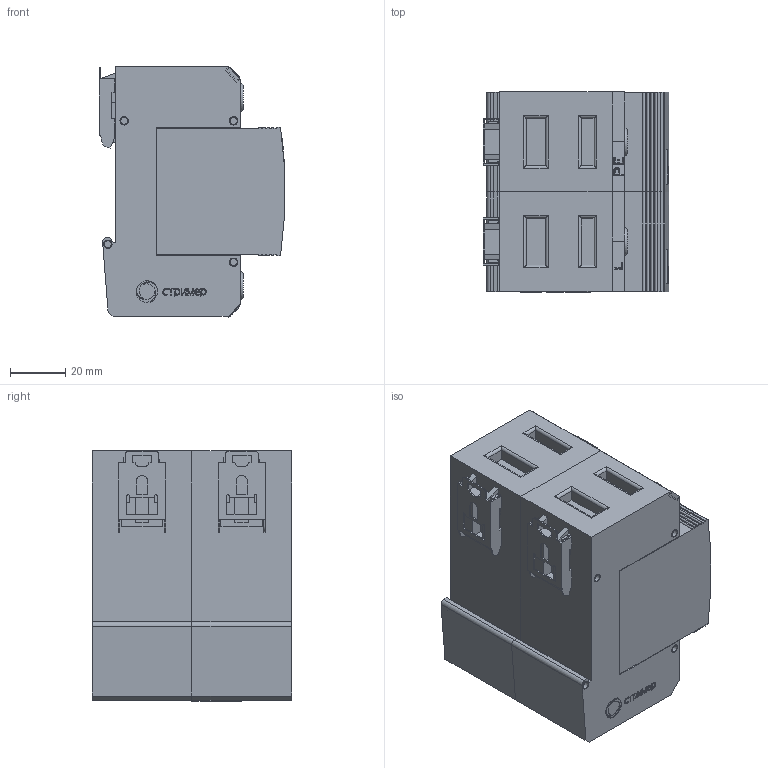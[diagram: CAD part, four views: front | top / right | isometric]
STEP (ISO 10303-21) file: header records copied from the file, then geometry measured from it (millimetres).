
FILE_DESCRIPTION(('TFLEX Exchange Step'),'2;1');
FILE_NAME('X2\041004400442\X0\.112_001.stp', '2022-08-30T13:48:24+03:00',('Ivan Berdigulov'),('Unknown organisation'),'TFLEX Exchange 2019.2','T-FLEX CAD','Unknown authorisation');
FILE_SCHEMA( ('AUTOMOTIVE_DESIGN { 1 0 10303 214 1 1 1 1 }') );
Length unit declared in the file: millimetre
Products named in the file (2): 0
Assembly tree (1 placements, depth 2):
  0
    0
Bounding box: 66.98 x 72.1 x 90.35 mm (x, y, z)
Volume: 345473.7 mm3; surface area: 69819.1 mm2
Topology: 59 solids, 59 shells, 882 faces, 2271 edges, 1525 vertices
Faces by surface type: plane 602, cylinder 184, bspline 92, torus 4
Full cylindrical faces by diameter (mm): 2.5 x24, 3 x24
Entity records: 35597 total; most frequent: CARTESIAN_POINT 14503, ORIENTED_EDGE 4438, DIRECTION 3892, EDGE_CURVE 2219, VECTOR 1542, LINE 1542, VERTEX_POINT 1525, AXIS2_PLACEMENT_3D 1175
